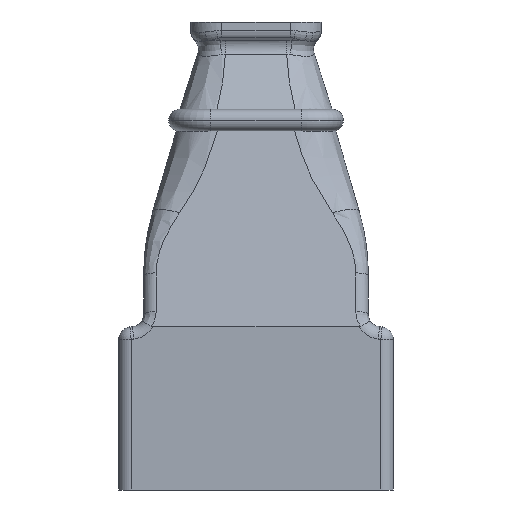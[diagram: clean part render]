
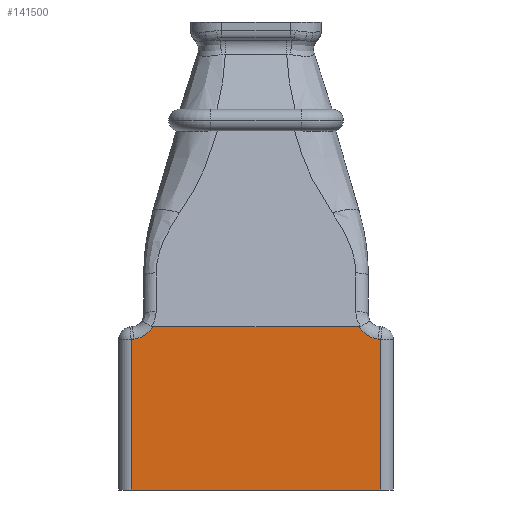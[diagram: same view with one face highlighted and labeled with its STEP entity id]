
A CAD part, front view. The second image highlights one B-rep face of the part: STEP entity #141500.
In plain terms, the highlighted planar face has unit normal (0, -1, 0).
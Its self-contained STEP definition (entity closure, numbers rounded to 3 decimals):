
#140770=CARTESIAN_POINT('',(66.,33.,0.));
#140780=DIRECTION('',(-0.,-1.,-0.));
#140790=DIRECTION('',(-1.,0.,0.));
#140800=AXIS2_PLACEMENT_3D('',#140770,#140780,#140790);
#140810=PLANE('',#140800);
#140820=CARTESIAN_POINT('',(24.209,33.,21.161));
#140830=DIRECTION('',(0.995,0.,0.104));
#140840=VECTOR('',#140830,1.);
#140850=LINE('',#140820,#140840);
#140860=CARTESIAN_POINT('',(24.,33.,21.139));
#140870=VERTEX_POINT('',#140860);
#140880=CARTESIAN_POINT('',(24.418,33.,21.183));
#140890=VERTEX_POINT('',#140880);
#140900=EDGE_CURVE('',#140870,#140890,#140850,.T.);
#140910=ORIENTED_EDGE('',*,*,#140900,.F.);
#140920=CARTESIAN_POINT('',(24.,33.,25.161));
#140930=DIRECTION('',(0.,-1.,0.));
#140940=DIRECTION('',(-1.,0.,0.));
#140950=AXIS2_PLACEMENT_3D('',#140920,#140930,#140940);
#140960=CIRCLE('',#140950,4.);
#140970=CARTESIAN_POINT('',(27.458,33.,23.15));
#140980=VERTEX_POINT('',#140970);
#140990=EDGE_CURVE('',#140890,#140980,#140960,.T.);
#141000=ORIENTED_EDGE('',*,*,#140990,.F.);
#141010=CARTESIAN_POINT('',(44.,33.,23.15));
#141020=DIRECTION('',(-1.,0.,0.));
#141030=VECTOR('',#141020,1.);
#141040=LINE('',#141010,#141030);
#141050=CARTESIAN_POINT('',(60.542,33.,23.15));
#141060=VERTEX_POINT('',#141050);
#141070=EDGE_CURVE('',#141060,#140980,#141040,.T.);
#141080=ORIENTED_EDGE('',*,*,#141070,.T.);
#141090=CARTESIAN_POINT('',(64.,33.,25.161));
#141100=DIRECTION('',(0.,-1.,0.));
#141110=DIRECTION('',(1.,0.,0.));
#141120=AXIS2_PLACEMENT_3D('',#141090,#141100,#141110);
#141130=CIRCLE('',#141120,4.);
#141140=CARTESIAN_POINT('',(63.582,33.,21.183));
#141150=VERTEX_POINT('',#141140);
#141160=EDGE_CURVE('',#141060,#141150,#141130,.T.);
#141170=ORIENTED_EDGE('',*,*,#141160,.F.);
#141180=CARTESIAN_POINT('',(63.791,33.,21.161));
#141190=DIRECTION('',(0.995,0.,-0.104));
#141200=VECTOR('',#141190,1.);
#141210=LINE('',#141180,#141200);
#141220=CARTESIAN_POINT('',(64.,33.,21.139));
#141230=VERTEX_POINT('',#141220);
#141240=EDGE_CURVE('',#141150,#141230,#141210,.T.);
#141250=ORIENTED_EDGE('',*,*,#141240,.F.);
#141260=CARTESIAN_POINT('',(64.,33.,11.47));
#141270=DIRECTION('',(0.,0.,1.));
#141280=VECTOR('',#141270,1.);
#141290=LINE('',#141260,#141280);
#141300=CARTESIAN_POINT('',(64.,33.,-3.));
#141310=VERTEX_POINT('',#141300);
#141320=EDGE_CURVE('',#141310,#141230,#141290,.T.);
#141330=ORIENTED_EDGE('',*,*,#141320,.T.);
#141340=CARTESIAN_POINT('',(66.,33.,-3.));
#141350=DIRECTION('',(-1.,0.,0.));
#141360=VECTOR('',#141350,1.);
#141370=LINE('',#141340,#141360);
#141380=CARTESIAN_POINT('',(24.,33.,-3.));
#141390=VERTEX_POINT('',#141380);
#141400=EDGE_CURVE('',#141310,#141390,#141370,.T.);
#141410=ORIENTED_EDGE('',*,*,#141400,.F.);
#141420=CARTESIAN_POINT('',(24.,33.,11.47));
#141430=DIRECTION('',(0.,0.,1.));
#141440=VECTOR('',#141430,1.);
#141450=LINE('',#141420,#141440);
#141460=EDGE_CURVE('',#141390,#140870,#141450,.T.);
#141470=ORIENTED_EDGE('',*,*,#141460,.F.);
#141480=EDGE_LOOP('',(#141470,#141410,#141330,#141250,#141170,#141080,
#141000,#140910));
#141490=FACE_OUTER_BOUND('',#141480,.T.);
#141500=ADVANCED_FACE('',(#141490),#140810,.T.);
